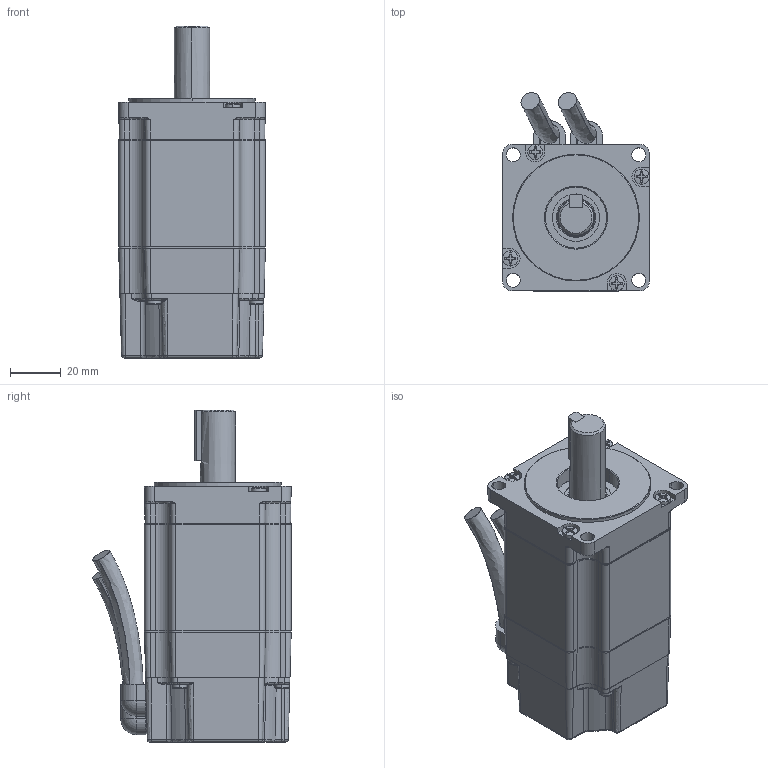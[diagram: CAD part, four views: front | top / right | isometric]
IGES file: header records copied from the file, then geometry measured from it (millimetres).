
Start section:  PTC IGES file: vlm21c.igs
Global section: file name: vlm21c.igs; native system: Pro/ENGINEER by Parametric Technology Corporation; preprocessor: 2006510; author: Ray.Dobbins; organization: Unknown; date: 20110715.125302; units: inch
Bounding box: 57.91 x 78.27 x 130.97 mm (x, y, z)
Surface area: 107831.6 mm2 (no closed solid volume)
Topology: 0 solids, 0 shells, 1832 faces, 9691 edges, 9681 vertices
Faces by surface type: revolution 1060, bspline 772
